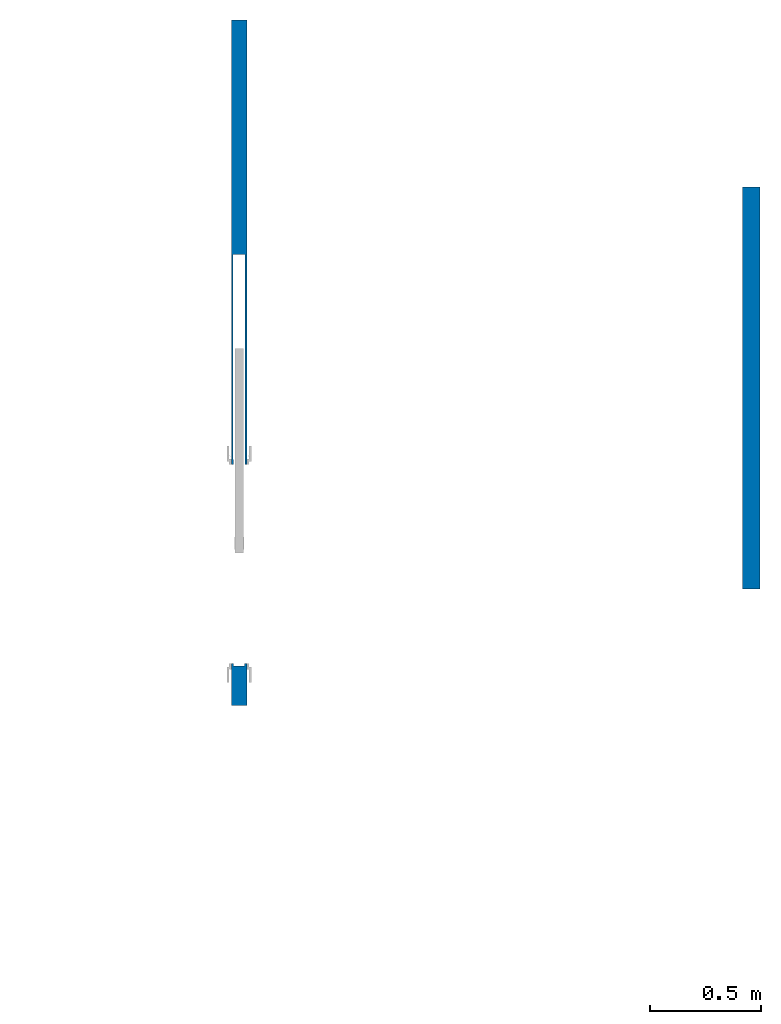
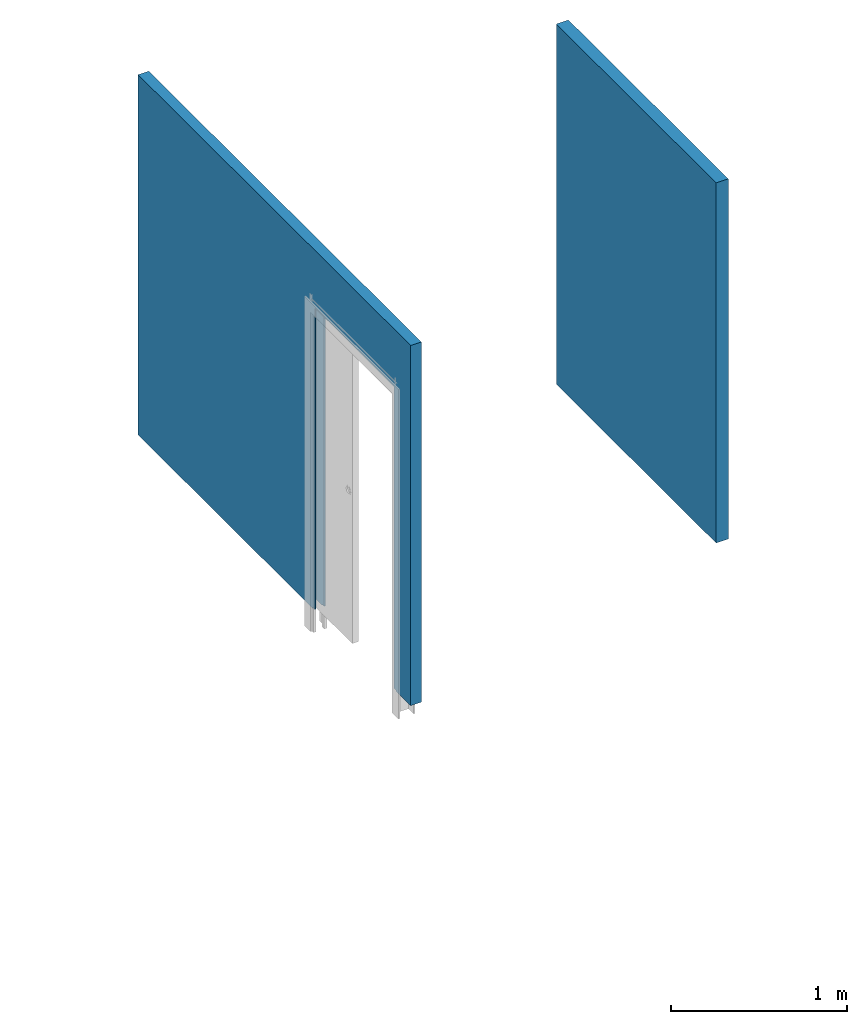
# One storey, part 1 of 3: 2 walls, 3 openings.
"""IFC2X3 building model written with IfcOpenShell, lengths in metres."""

from ifc_helpers import new_model, entity, si_unit, converted_unit, derived_unit, direction, frame, frame_2d, origin, place, context, subcontext, project, spatial, rectangle, extrude, faceted_brep, material, layer, layer_set, layer_usage, type_object, element, save


model = new_model("IFC2X3")

# Units and contexts
model_context = context("Model", 3, precision=1e-05, world=origin(), true_north=direction((6.123031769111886e-17, 1.0)))
body_context = subcontext(model_context, "Body", "Model", "MODEL_VIEW")
ifc_project = project(units=[si_unit("LENGTHUNIT", "METRE"), si_unit("AREAUNIT", "SQUARE_METRE"), si_unit("VOLUMEUNIT", "CUBIC_METRE"), converted_unit("PLANEANGLEUNIT", "DEGREE", entity("IfcRatioMeasure", 0.017453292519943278), si_unit("PLANEANGLEUNIT", "RADIAN"), dimensions=[0, 0, 0, 0, 0, 0, 0]), si_unit("MASSUNIT", "GRAM", prefix="KILO"), derived_unit("MASSDENSITYUNIT", [(si_unit("MASSUNIT", "GRAM", prefix="KILO"), 1), (si_unit("LENGTHUNIT", "METRE"), -3)]), derived_unit("IONCONCENTRATIONUNIT", [(si_unit("MASSUNIT", "GRAM", prefix="KILO"), 1), (si_unit("LENGTHUNIT", "METRE"), -3)]), derived_unit("MOMENTOFINERTIAUNIT", [(si_unit("LENGTHUNIT", "METRE"), 4)]), si_unit("TIMEUNIT", "SECOND"), si_unit("FREQUENCYUNIT", "HERTZ"), si_unit("THERMODYNAMICTEMPERATUREUNIT", "DEGREE_CELSIUS"), derived_unit("THERMALTRANSMITTANCEUNIT", [(si_unit("MASSUNIT", "GRAM", prefix="KILO"), 1), (si_unit("THERMODYNAMICTEMPERATUREUNIT", "KELVIN"), -1), (si_unit("TIMEUNIT", "SECOND"), -3)]), derived_unit("THERMALCONDUCTANCEUNIT", [(si_unit("MASSUNIT", "GRAM", prefix="KILO"), 1), (si_unit("THERMODYNAMICTEMPERATUREUNIT", "KELVIN"), -1), (si_unit("TIMEUNIT", "SECOND"), -3), (si_unit("LENGTHUNIT", "METRE"), 1)]), derived_unit("VOLUMETRICFLOWRATEUNIT", [(si_unit("LENGTHUNIT", "METRE"), 3), (si_unit("TIMEUNIT", "SECOND"), -1)]), derived_unit("MASSFLOWRATEUNIT", [(si_unit("MASSUNIT", "GRAM", prefix="KILO"), 1), (si_unit("TIMEUNIT", "SECOND"), -1)]), derived_unit("ROTATIONALFREQUENCYUNIT", [(si_unit("TIMEUNIT", "SECOND"), -1)]), si_unit("ELECTRICCURRENTUNIT", "AMPERE"), si_unit("ELECTRICVOLTAGEUNIT", "VOLT"), si_unit("POWERUNIT", "WATT"), si_unit("FORCEUNIT", "NEWTON", prefix="KILO"), si_unit("ILLUMINANCEUNIT", "LUX"), si_unit("LUMINOUSFLUXUNIT", "LUMEN"), si_unit("LUMINOUSINTENSITYUNIT", "CANDELA"), derived_unit("USERDEFINED", [(si_unit("MASSUNIT", "GRAM", prefix="KILO"), -1), (si_unit("LENGTHUNIT", "METRE"), -2), (si_unit("TIMEUNIT", "SECOND"), 3), (si_unit("LUMINOUSFLUXUNIT", "LUMEN"), 1)]), derived_unit("USERDEFINED", [(si_unit("MASSUNIT", "GRAM", prefix="KILO"), 1), (si_unit("TIMEUNIT", "SECOND"), -3), (si_unit("LENGTHUNIT", "METRE"), 3), (si_unit("ELECTRICCURRENTUNIT", "AMPERE"), -2)]), derived_unit("SOUNDPOWERUNIT", [(si_unit("MASSUNIT", "GRAM", prefix="KILO"), 1), (si_unit("TIMEUNIT", "SECOND"), -3), (si_unit("LENGTHUNIT", "METRE"), 2)]), derived_unit("SOUNDPRESSUREUNIT", [(si_unit("MASSUNIT", "GRAM", prefix="KILO"), 1), (si_unit("LENGTHUNIT", "METRE"), -1), (si_unit("TIMEUNIT", "SECOND"), -2)]), derived_unit("LINEARVELOCITYUNIT", [(si_unit("LENGTHUNIT", "METRE"), 1), (si_unit("TIMEUNIT", "SECOND"), -1)]), si_unit("PRESSUREUNIT", "PASCAL"), derived_unit("USERDEFINED", [(si_unit("MASSUNIT", "GRAM", prefix="KILO"), 1), (si_unit("LENGTHUNIT", "METRE"), -2), (si_unit("TIMEUNIT", "SECOND"), -2)]), derived_unit("LINEARFORCEUNIT", [(si_unit("MASSUNIT", "GRAM", prefix="KILO"), 1), (si_unit("TIMEUNIT", "SECOND"), -2)]), derived_unit("PLANARFORCEUNIT", [(si_unit("MASSUNIT", "GRAM", prefix="KILO"), 1), (si_unit("LENGTHUNIT", "METRE"), -1), (si_unit("TIMEUNIT", "SECOND"), -2)]), derived_unit("SPECIFICHEATCAPACITYUNIT", [(si_unit("THERMODYNAMICTEMPERATUREUNIT", "KELVIN"), -1), (si_unit("LENGTHUNIT", "METRE"), 2), (si_unit("TIMEUNIT", "SECOND"), -2)]), derived_unit("HEATINGVALUEUNIT", [(si_unit("LENGTHUNIT", "METRE"), 2), (si_unit("TIMEUNIT", "SECOND"), -2)]), derived_unit("VAPORPERMEABILITYUNIT", [(si_unit("LENGTHUNIT", "METRE"), -1), (si_unit("TIMEUNIT", "SECOND"), 1)]), derived_unit("DYNAMICVISCOSITYUNIT", [(si_unit("MASSUNIT", "GRAM", prefix="KILO"), 1), (si_unit("TIMEUNIT", "SECOND"), -1), (si_unit("LENGTHUNIT", "METRE"), -1)]), derived_unit("THERMALEXPANSIONCOEFFICIENTUNIT", [(si_unit("THERMODYNAMICTEMPERATUREUNIT", "KELVIN"), -1)]), derived_unit("MODULUSOFELASTICITYUNIT", [(si_unit("MASSUNIT", "GRAM", prefix="KILO"), 1), (si_unit("LENGTHUNIT", "METRE"), -1), (si_unit("TIMEUNIT", "SECOND"), -2)]), derived_unit("ISOTHERMALMOISTURECAPACITYUNIT", [(si_unit("LENGTHUNIT", "METRE"), 3), (si_unit("MASSUNIT", "GRAM", prefix="KILO"), -1)]), derived_unit("MOISTUREDIFFUSIVITYUNIT", [(si_unit("TIMEUNIT", "SECOND"), -1), (si_unit("LENGTHUNIT", "METRE"), 2)])], contexts=[model_context])

# Site, building, storey
site_placement = place(None, frame((1.2553507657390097, -0.6266432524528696, -1.0397761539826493), z_axis=(0.0, 0.0, 1.0), x_axis=(-1.0, 0.0, 0.0)))
site = spatial("IfcSite", under=ifc_project, at=site_placement, Name="Default", CompositionType="ELEMENT")
building_placement = place(site_placement, origin())
building = spatial("IfcBuilding", under=site, at=building_placement, Name="MAISON D'HABITATION", CompositionType="ELEMENT")
storey_placement = place(building_placement, frame((0.0, 0.0, 1.0397761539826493)))
storey = spatial("IfcBuildingStorey", under=building, at=storey_placement, Name="site", CompositionType="ELEMENT", Elevation=1.0397761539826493)

# Wall, opening
ifc_material_1 = material(Name="Peinture")
ifc_layer_1 = layer(ifc_material_1, 0.007)
ifc_material_2 = material(Name="Plaque de mur de gypse")
ifc_layer_2 = layer(ifc_material_2, 0.013)
ifc_material_3 = material(Name="Isolation")
ifc_layer_3 = layer(ifc_material_3, 0.03)
ifc_layer_4 = layer(ifc_material_2, 0.013)
ifc_layer_5 = layer(ifc_material_1, 0.007)
ifc_layer_set_1 = layer_set([ifc_layer_1, ifc_layer_2, ifc_layer_3, ifc_layer_4, ifc_layer_5], Name="Mur de base:mur interieur 7 cm")
ifc_layer_usage_1 = layer_usage(ifc_layer_set_1, "AXIS2", "NEGATIVE", 0.034999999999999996)
wall_type_1 = type_object("IfcWallType", Name="Mur de base:mur interieur 7 cm", PredefinedType="STANDARD", material=ifc_layer_set_1)
wall_1_placement = place(storey_placement, frame((-2.3248669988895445, -5.3638169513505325, 0.0), z_axis=(0.0, 0.0, 1.0), x_axis=(0.0, -1.0, 0.0)))
wall_1 = element("IfcWallStandardCase", 1, at=wall_1_placement, inside=storey, type_object=wall_type_1, material=ifc_layer_usage_1, Name="Mur de base:mur interieur 7 cm", ObjectType="Mur de base:mur interieur 7 cm", context=body_context, shape_type="SweptSolid", body=[
    extrude(rectangle(XDim=3.0999999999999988, YDim=0.07000000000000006, at=frame_2d((1.5500000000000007, -1.3530843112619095e-16), x_axis=(1.0, 0.0))), origin(), (0.0, 0.0, 1.0), 2.499999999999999),
])
opening_1_placement = place(wall_1_placement, frame((2.0400000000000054, -0.05510000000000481, -0.1499999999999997), z_axis=(0.0, 0.0, 1.0), x_axis=(0.0, 1.0, 0.0)))
element("IfcOpeningElement", 2, at=opening_1_placement, cuts=wall_1, Name="Mur de base:mur interieur 7 cm", ObjectType="Opening", context=body_context, shape_type="Brep", body=[
    faceted_brep([(0.020100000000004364, 1.8500000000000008, 2.250000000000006), (0.020100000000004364, 1.8500000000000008, 0.1570000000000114), (0.02010000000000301, 0.9500000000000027, 0.15700000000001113), (0.02010000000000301, 0.9500000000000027, 2.250000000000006), (0.0901000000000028, 0.9500000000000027, 2.250000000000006), (0.0901000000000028, 0.9500000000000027, 0.1570000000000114), (0.09010000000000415, 1.8500000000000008, 0.15700000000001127), (0.09010000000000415, 1.8500000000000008, 2.250000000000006), (0.02910000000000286, 0.9500000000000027, 0.1570000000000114), (0.02910000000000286, 0.9500000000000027, 2.25), (0.028099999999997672, 0.9500000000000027, 2.250000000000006), (0.028099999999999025, 1.8500000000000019, 2.250000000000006), (0.030100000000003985, 1.8500000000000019, 2.250000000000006), (0.030100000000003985, 1.8500000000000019, 0.1570000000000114), (0.0280999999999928, 0.0, 0.0), (0.028099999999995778, 0.925000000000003, 0.0), (0.0, 0.925000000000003, 0.0), (0.0, 1.8750000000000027, 0.0), (0.11020000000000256, 1.8750000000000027, 0.0), (0.11019999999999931, 0.925000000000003, 0.0), (0.08210000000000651, 0.925000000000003, 0.0), (0.08210000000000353, 0.0, 0.0), (0.0801000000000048, 1.8500000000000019, 2.250000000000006), (0.08010000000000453, 1.8500000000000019, 0.15700000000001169), (0.08010000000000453, 1.8600000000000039, 0.15700000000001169), (0.08010000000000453, 1.8600000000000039, 2.25), (0.08210000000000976, 1.8600000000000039, 2.298), (0.08210000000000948, 1.8600000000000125, 2.25), (0.030100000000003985, 1.8600000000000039, 0.15700000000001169), (0.030100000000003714, 1.8600000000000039, 2.25), (0.028099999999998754, 1.8600000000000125, 2.25), (0.028099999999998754, 1.8600000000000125, 2.298), (0.02910000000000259, 0.9280000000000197, 0.15700000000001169), (0.02910000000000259, 0.9280000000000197, 2.25), (0.0280999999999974, 0.9280000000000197, 0.15700000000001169), (0.0280999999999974, 0.9280000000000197, 2.25), (0.0280999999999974, 0.925000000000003, 0.15700000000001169), (0.028099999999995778, 0.0, 2.298), (0.08210000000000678, 0.0, 2.298), (0.08210000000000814, 0.925000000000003, 0.15700000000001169), (0.0821000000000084, 0.9280000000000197, 0.15700000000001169), (0.08210000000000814, 0.9280000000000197, 2.25), (0.0821000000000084, 0.9500000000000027, 2.250000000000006), (0.08210000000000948, 1.8500000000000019, 2.25), (0.08110000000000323, 0.9280000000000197, 0.15700000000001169), (0.08110000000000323, 0.9280000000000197, 2.25), (0.08110000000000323, 0.9500000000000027, 0.1570000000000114), (0.08110000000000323, 0.9500000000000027, 2.25), (0.11019999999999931, 0.9250000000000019, 0.1570000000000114), (0.11020000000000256, 1.8750000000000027, 0.1570000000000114), (0.0, 1.8750000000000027, 0.1570000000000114), (0.0, 0.925000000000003, 0.1570000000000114)], [[[0, 1, 2, 3]], [[4, 5, 6, 7]], [[3, 2, 8, 9, 10]], [[3, 10, 11, 0]], [[11, 12, 13, 1, 0]], [[14, 15, 16, 17, 18, 19, 20, 21]], [[22, 23, 24, 25]], [[26, 27, 25, 24, 28, 29, 30, 31]], [[29, 28, 13, 12]], [[9, 8, 32, 33]], [[33, 32, 34, 35]], [[31, 30, 11, 10, 35, 34, 36, 15, 14, 37]], [[14, 21, 38, 37]], [[21, 20, 39, 40, 41, 42, 43, 27, 26, 38]], [[41, 40, 44, 45]], [[45, 44, 46, 47]], [[37, 38, 26, 31]], [[41, 45, 47, 42]], [[36, 34, 32, 8, 2, 1, 13, 28, 24, 23, 6, 5, 46, 44, 40, 39, 48, 49, 50, 51]], [[20, 19, 48, 39]], [[48, 19, 18, 49]], [[49, 18, 17, 50]], [[50, 17, 16, 51]], [[51, 16, 15, 36]], [[27, 43, 22, 25]], [[29, 12, 11, 30]], [[10, 9, 33, 35]], [[7, 6, 23, 22, 43]], [[7, 43, 42, 4]], [[42, 47, 46, 5, 4]]]),
])

# Wall, openings
ifc_material_4 = material(Name="Invisible")
ifc_layer_6 = layer(ifc_material_4, 0.08)
ifc_layer_set_2 = layer_set([ifc_layer_6], Name="Mur de base:Mur Invisible = 0.80m")
ifc_layer_usage_2 = layer_usage(ifc_layer_set_2, "AXIS2", "NEGATIVE", 0.04)
wall_type_2 = type_object("IfcWallType", Name="Mur de base:Mur Invisible = 0.80m", PredefinedType="STANDARD", material=ifc_layer_set_2)
wall_2_placement = place(storey_placement, frame((-4.639866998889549, -7.709610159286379, 0.0), z_axis=(0.0, 0.0, 1.0), x_axis=(0.0, 1.0, 0.0)))
wall_2 = element("IfcWallStandardCase", 3, at=wall_2_placement, inside=storey, type_object=wall_type_2, material=ifc_layer_usage_2, Name="Mur de base:Mur Invisible = 0.80m", ObjectType="Mur de base:Mur Invisible = 0.80m", context=body_context, shape_type="SweptSolid", body=[
    extrude(rectangle(XDim=1.8180000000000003, YDim=0.08000000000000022, at=frame_2d((0.9090000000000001, 5.551115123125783e-17), x_axis=(-1.0, 0.0))), origin(), (0.0, 0.0, 1.0), 2.499999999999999),
])
opening_2_placement = place(wall_2_placement, frame((3.641793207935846, 2.147000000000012, -0.10000000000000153)))
element("IfcOpeningElement", 4, at=opening_2_placement, cuts=wall_2, Name="Mur de base:Mur Invisible = 0.80m", ObjectType="Opening", context=body_context, shape_type="Brep", body=[
    faceted_brep([(2.4440000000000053, -2.107000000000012, 2.2499999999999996), (2.4440000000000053, 0.0, 2.250000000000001), (0.044000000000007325, 0.0, 2.2499999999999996), (0.044000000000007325, -2.1070000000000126, 2.2499999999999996), (0.011999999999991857, -2.1070000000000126, 0.10000000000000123), (0.044000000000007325, -2.1070000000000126, 0.10000000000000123), (0.044000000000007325, -2.167000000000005, 0.10000000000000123), (2.4440000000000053, -2.167000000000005, 0.10000000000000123), (2.4440000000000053, -2.1070000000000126, 0.10000000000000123), (2.4759999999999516, -2.1070000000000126, 0.10000000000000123), (2.4759999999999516, -2.120000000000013, 0.10000000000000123), (2.459000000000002, -2.120000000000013, 0.10000000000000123), (2.459000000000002, -2.2470000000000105, 0.10000000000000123), (0.029000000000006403, -2.2470000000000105, 0.10000000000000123), (0.029000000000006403, -2.120000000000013, 0.10000000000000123), (0.011999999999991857, -2.120000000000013, 0.10000000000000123), (0.044000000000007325, 0.0, 0.0), (0.044000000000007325, -2.107000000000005, 0.0), (0.044000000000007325, -2.1670000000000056, 0.04328092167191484), (2.459000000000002, -2.24700000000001, 2.275499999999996), (2.488000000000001, -2.2470000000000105, 2.2754999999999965), (2.488000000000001, -2.24700000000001, 2.475499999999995), (0.0, -2.2470000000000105, 2.475499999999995), (0.0, -2.2470000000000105, 2.2754999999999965), (0.029000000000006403, -2.24700000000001, 2.275499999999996), (2.4440000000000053, -2.1670000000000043, 0.04328092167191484), (2.4440000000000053, -2.1070000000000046, 0.0), (2.4440000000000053, 0.0, 0.0), (0.011999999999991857, -2.107000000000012, 2.2754999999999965), (0.0, -2.107000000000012, 2.2754999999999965), (0.0, -2.107000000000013, 2.475499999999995), (2.488000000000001, -2.1070000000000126, 2.475499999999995), (2.488000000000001, -2.107000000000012, 2.2754999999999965), (2.4759999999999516, -2.1070000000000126, 2.275499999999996), (0.011999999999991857, -2.120000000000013, 2.2754999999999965), (2.4759999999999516, -2.1200000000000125, 2.275499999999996), (0.029000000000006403, -2.1200000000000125, 2.2754999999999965), (2.459000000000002, -2.1200000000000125, 2.2754999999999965)], [[[0, 1, 2, 3]], [[4, 5, 6, 7, 8, 9, 10, 11, 12, 13, 14, 15]], [[2, 16, 17, 18, 6, 5, 3]], [[19, 20, 21, 22, 23, 24, 13, 12]], [[0, 8, 7, 25, 26, 27, 1]], [[28, 29, 30, 31, 32, 33, 9, 8, 0, 3, 5, 4]], [[15, 34, 28, 4]], [[9, 33, 35, 10]], [[14, 36, 34, 15]], [[13, 24, 36, 14]], [[11, 37, 19, 12]], [[10, 35, 37, 11]], [[22, 30, 29, 23]], [[21, 20, 32, 31]], [[22, 21, 31, 30]], [[29, 28, 34, 36, 24, 23]], [[17, 26, 25, 18]], [[25, 7, 6, 18]], [[2, 1, 27, 16]], [[16, 27, 26, 17]], [[20, 19, 37, 35, 33, 32]]]),
])
opening_3_placement = place(wall_2_placement, frame((8.531793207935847, 1.4700000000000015, 0.7744999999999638)))
element("IfcOpeningElement", 5, at=opening_3_placement, cuts=wall_2, Name="Mur de base:Mur Invisible = 0.80m", ObjectType="Opening", context=body_context, shape_type="Brep", body=[
    faceted_brep([(0.044000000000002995, 0.0, 1.3754999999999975), (0.04400000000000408, -1.430000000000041, 1.3754999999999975), (1.0440000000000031, -1.4300000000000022, 1.3754999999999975), (1.044000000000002, 0.0, 1.3754999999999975), (0.011999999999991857, -1.430000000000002, 0.10000000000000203), (0.04400000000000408, -1.430000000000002, 0.10000000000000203), (0.04400000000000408, -1.449999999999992, 0.10000000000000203), (0.04400000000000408, -1.489999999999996, 0.10000000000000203), (1.0440000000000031, -1.489999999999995, 0.10000000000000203), (1.0440000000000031, -1.449999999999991, 0.10000000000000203), (1.0440000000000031, -1.4300000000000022, 0.10000000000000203), (1.0759999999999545, -1.4300000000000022, 0.10000000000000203), (1.0759999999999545, -1.4430000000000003, 0.10000000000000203), (1.0629993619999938, -1.4430000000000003, 0.10000000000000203), (1.0629993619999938, -1.5700000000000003, 0.10000000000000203), (0.025000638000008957, -1.5700000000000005, 0.10000000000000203), (0.025000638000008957, -1.4430000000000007, 0.10000000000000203), (0.011999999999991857, -1.4430000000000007, 0.10000000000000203), (1.044000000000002, 0.0, 0.10000000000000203), (0.044000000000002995, 0.0, 0.10000000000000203), (0.044000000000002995, -1.1800000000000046, 0.10000000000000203), (0.044000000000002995, -1.1800000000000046, 0.0), (0.04400000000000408, -1.4299999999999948, 0.0), (0.04400000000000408, -1.489999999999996, 0.04328092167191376), (1.0629993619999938, -1.5700000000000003, 1.3754999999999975), (1.0880000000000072, -1.5700000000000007, 1.3755000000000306), (1.0880000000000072, -1.5700000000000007, 1.5755000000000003), (0.0, -1.5700000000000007, 1.5755000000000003), (0.0, -1.5700000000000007, 1.3755000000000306), (0.025000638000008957, -1.5700000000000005, 1.3754999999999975), (1.0440000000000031, -1.4899999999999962, 0.04328092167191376), (1.0440000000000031, -1.4299999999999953, 0.0), (1.0440000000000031, -1.1800000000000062, 0.0), (1.0440000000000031, -1.180000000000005, 0.10000000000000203), (0.011999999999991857, -1.4300000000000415, 1.3755000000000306), (0.0, -1.4300000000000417, 1.3755000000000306), (0.0, -1.4300000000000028, 1.5755000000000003), (1.0880000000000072, -1.4300000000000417, 1.5755000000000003), (1.0880000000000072, -1.4300000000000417, 1.3755000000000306), (1.0759999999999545, -1.4300000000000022, 1.3754999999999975), (0.011999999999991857, -1.443, 1.3755000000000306), (1.0759999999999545, -1.443000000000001, 1.3754999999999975), (0.025000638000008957, -1.4430000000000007, 1.3755000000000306), (1.0629993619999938, -1.4430000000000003, 1.3755000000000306)], [[[0, 1, 2, 3]], [[4, 5, 6, 7, 8, 9, 10, 11, 12, 13, 14, 15, 16, 17]], [[3, 18, 19, 0]], [[19, 20, 21, 22, 23, 7, 6, 5, 1, 0]], [[24, 25, 26, 27, 28, 29, 15, 14]], [[3, 2, 10, 9, 8, 30, 31, 32, 33, 18]], [[34, 35, 36, 37, 38, 39, 11, 10, 2, 1, 5, 4]], [[17, 40, 34, 4]], [[11, 39, 41, 12]], [[16, 42, 40, 17]], [[15, 29, 42, 16]], [[13, 43, 24, 14]], [[12, 41, 43, 13]], [[36, 35, 28, 27]], [[37, 26, 25, 38]], [[35, 34, 40, 42, 29, 28]], [[27, 26, 37, 36]], [[20, 33, 32, 21]], [[21, 32, 31, 22]], [[22, 31, 30, 23]], [[23, 30, 8, 7]], [[25, 24, 43, 41, 39, 38]], [[18, 33, 20, 19]]]),
])

save(model, "model.ifc")
